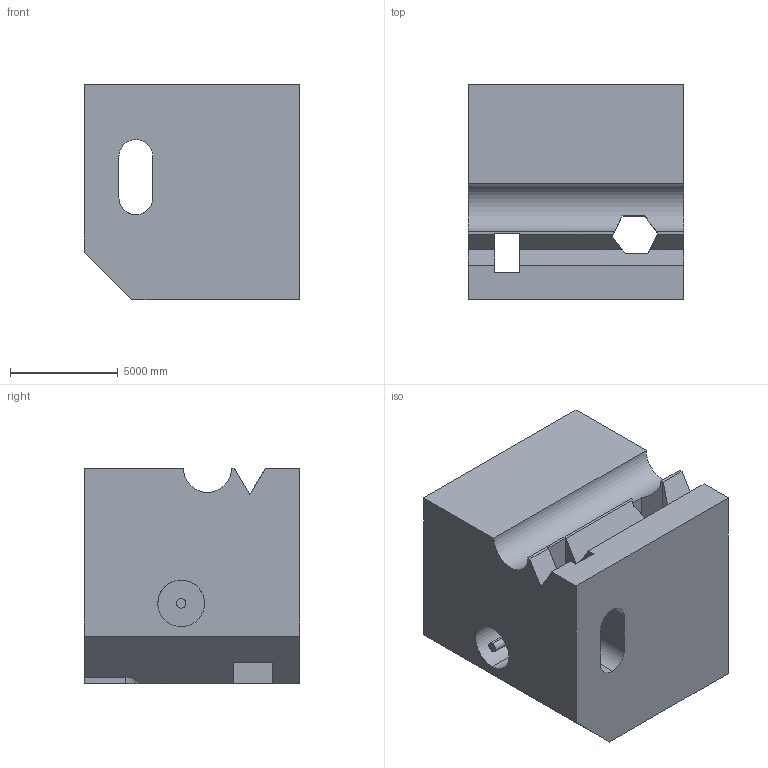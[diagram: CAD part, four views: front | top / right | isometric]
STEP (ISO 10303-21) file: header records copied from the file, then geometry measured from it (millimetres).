
FILE_DESCRIPTION (( 'STEP AP203' ), '1' );
FILE_NAME ('188.STEP', '2022-08-31T14:35:46', ( 'user' ), ( '' ), 'SwSTEP 2.0', 'SolidWorks 2021', '' );
FILE_SCHEMA (( 'CONFIG_CONTROL_DESIGN' ));
Length unit declared in the file: centimetre
Products named in the file (1): 188
Bounding box: 10000 x 10000 x 10000 mm (x, y, z)
Volume: 786948302041.3 mm3; surface area: 843902653.2 mm2
Topology: 1 solids, 1 shells, 57 faces, 183 edges, 122 vertices
Faces by surface type: plane 38, cylinder 19
Entity records: 2982 total; most frequent: CARTESIAN_POINT 1275, ORIENTED_EDGE 366, DIRECTION 315, EDGE_CURVE 183, VECTOR 129, LINE 129, VERTEX_POINT 122, AXIS2_PLACEMENT_3D 93
